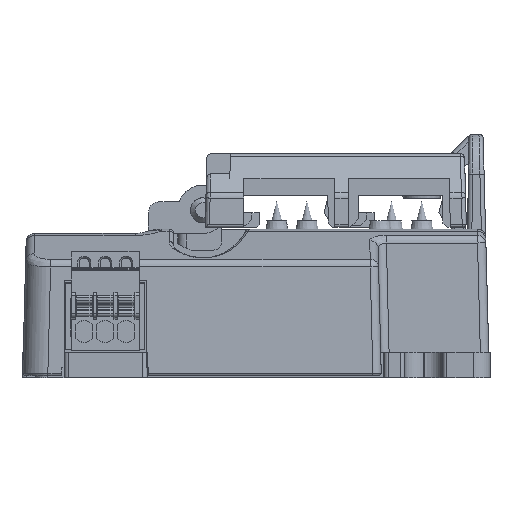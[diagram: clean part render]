
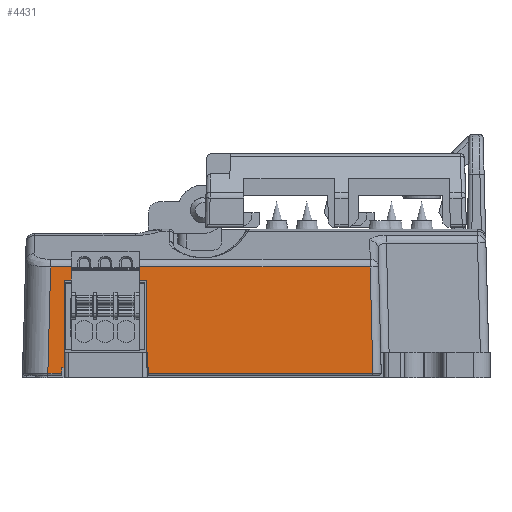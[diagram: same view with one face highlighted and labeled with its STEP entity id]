
A CAD part, left-side view. The second image highlights one B-rep face of the part: STEP entity #4431.
In plain terms, the highlighted planar face has unit normal (-1, 0, 0.026).
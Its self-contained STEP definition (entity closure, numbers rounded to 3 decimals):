
#2566=FACE_OUTER_BOUND('',#8956,.T.);
#4431=ADVANCED_FACE('',(#2566),#6283,.T.);
#6283=PLANE('',#38808);
#8956=EDGE_LOOP('',(#13044,#13045,#13046,#13047,#13048,#13049,#13050,#13051,
#13052,#13053,#13054,#13055));
#13044=ORIENTED_EDGE('',*,*,#25831,.F.);
#13045=ORIENTED_EDGE('',*,*,#25832,.F.);
#13046=ORIENTED_EDGE('',*,*,#25833,.F.);
#13047=ORIENTED_EDGE('',*,*,#25834,.F.);
#13048=ORIENTED_EDGE('',*,*,#25835,.T.);
#13049=ORIENTED_EDGE('',*,*,#25786,.T.);
#13050=ORIENTED_EDGE('',*,*,#25836,.T.);
#13051=ORIENTED_EDGE('',*,*,#25837,.F.);
#13052=ORIENTED_EDGE('',*,*,#25838,.F.);
#13053=ORIENTED_EDGE('',*,*,#25839,.F.);
#13054=ORIENTED_EDGE('',*,*,#25840,.F.);
#13055=ORIENTED_EDGE('',*,*,#25841,.F.);
#21938=VERTEX_POINT('',#53645);
#21952=VERTEX_POINT('',#53756);
#21990=VERTEX_POINT('',#53929);
#21991=VERTEX_POINT('',#53930);
#21992=VERTEX_POINT('',#53932);
#21993=VERTEX_POINT('',#53934);
#21994=VERTEX_POINT('',#53936);
#21995=VERTEX_POINT('',#53939);
#21996=VERTEX_POINT('',#53941);
#21997=VERTEX_POINT('',#53943);
#21998=VERTEX_POINT('',#53945);
#21999=VERTEX_POINT('',#53947);
#25786=EDGE_CURVE('',#21938,#21952,#30744,.T.);
#25831=EDGE_CURVE('',#21990,#21991,#30774,.T.);
#25832=EDGE_CURVE('',#21992,#21990,#30775,.T.);
#25833=EDGE_CURVE('',#21993,#21992,#30776,.T.);
#25834=EDGE_CURVE('',#21994,#21993,#30777,.T.);
#25835=EDGE_CURVE('',#21994,#21938,#30778,.T.);
#25836=EDGE_CURVE('',#21952,#21995,#30779,.T.);
#25837=EDGE_CURVE('',#21996,#21995,#30780,.T.);
#25838=EDGE_CURVE('',#21997,#21996,#30781,.T.);
#25839=EDGE_CURVE('',#21998,#21997,#30782,.T.);
#25840=EDGE_CURVE('',#21999,#21998,#30783,.T.);
#25841=EDGE_CURVE('',#21991,#21999,#30784,.T.);
#30744=LINE('',#53758,#34779);
#30774=LINE('',#53928,#34809);
#30775=LINE('',#53931,#34810);
#30776=LINE('',#53933,#34811);
#30777=LINE('',#53935,#34812);
#30778=LINE('',#53937,#34813);
#30779=LINE('',#53938,#34814);
#30780=LINE('',#53940,#34815);
#30781=LINE('',#53942,#34816);
#30782=LINE('',#53944,#34817);
#30783=LINE('',#53946,#34818);
#30784=LINE('',#53948,#34819);
#34779=VECTOR('',#43190,1.);
#34809=VECTOR('',#43264,1.);
#34810=VECTOR('',#43265,1.);
#34811=VECTOR('',#43266,1.);
#34812=VECTOR('',#43267,1.);
#34813=VECTOR('',#43268,1.);
#34814=VECTOR('',#43269,1.);
#34815=VECTOR('',#43270,1.);
#34816=VECTOR('',#43271,1.);
#34817=VECTOR('',#43272,1.);
#34818=VECTOR('',#43273,1.);
#34819=VECTOR('',#43274,1.);
#38808=AXIS2_PLACEMENT_3D('',#53949,#43275,#43276);
#43190=DIRECTION('',(0.,1.,0.));
#43264=DIRECTION('',(0.026,0.,1.));
#43265=DIRECTION('',(0.,1.,0.));
#43266=DIRECTION('',(0.026,0.,1.));
#43267=DIRECTION('',(0.,1.,0.));
#43268=DIRECTION('',(0.026,0.025,0.999));
#43269=DIRECTION('',(-0.026,0.026,-0.999));
#43270=DIRECTION('',(0.,1.,0.));
#43271=DIRECTION('',(-0.026,0.,-1.));
#43272=DIRECTION('',(0.,1.,0.));
#43273=DIRECTION('',(-0.026,0.,-1.));
#43274=DIRECTION('',(0.,1.,0.));
#43275=DIRECTION('',(-1.,0.,0.026));
#43276=DIRECTION('',(-0.026,0.,-1.));
#53645=CARTESIAN_POINT('',(-790.607,187.321,20.49));
#53756=CARTESIAN_POINT('',(-790.607,225.409,20.49));
#53758=CARTESIAN_POINT('',(-790.607,219.566,20.49));
#53928=CARTESIAN_POINT('',(-790.953,214.007,7.3));
#53929=CARTESIAN_POINT('',(-790.921,214.007,8.5));
#53930=CARTESIAN_POINT('',(-790.649,214.007,18.9));
#53931=CARTESIAN_POINT('',(-790.921,205.991,8.5));
#53932=CARTESIAN_POINT('',(-790.921,213.707,8.5));
#53933=CARTESIAN_POINT('',(-790.953,213.707,7.3));
#53934=CARTESIAN_POINT('',(-790.94,213.707,7.8));
#53935=CARTESIAN_POINT('',(-790.94,219.566,7.8));
#53936=CARTESIAN_POINT('',(-790.94,187.007,7.8));
#53937=CARTESIAN_POINT('',(-790.93,187.016,8.177));
#53938=CARTESIAN_POINT('',(-790.949,225.75,7.462));
#53939=CARTESIAN_POINT('',(-790.94,225.742,7.8));
#53940=CARTESIAN_POINT('',(-790.94,219.566,7.8));
#53941=CARTESIAN_POINT('',(-790.94,224.107,7.8));
#53942=CARTESIAN_POINT('',(-790.953,224.107,7.3));
#53943=CARTESIAN_POINT('',(-790.921,224.107,8.5));
#53944=CARTESIAN_POINT('',(-790.921,205.991,8.5));
#53945=CARTESIAN_POINT('',(-790.921,223.807,8.5));
#53946=CARTESIAN_POINT('',(-790.953,223.807,7.3));
#53947=CARTESIAN_POINT('',(-790.649,223.807,18.9));
#53948=CARTESIAN_POINT('',(-790.649,219.566,18.9));
#53949=CARTESIAN_POINT('',(-790.953,219.566,7.3));
